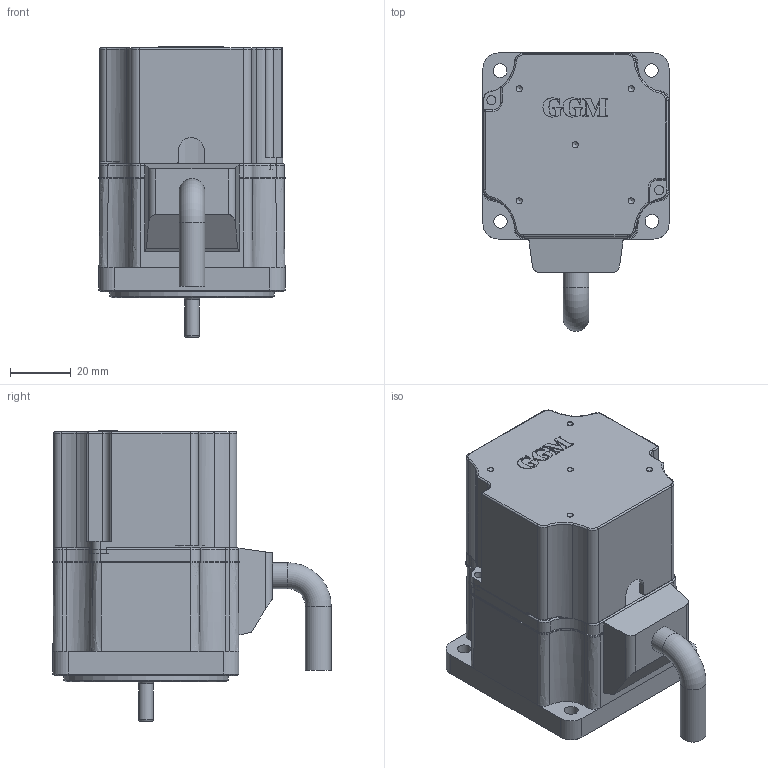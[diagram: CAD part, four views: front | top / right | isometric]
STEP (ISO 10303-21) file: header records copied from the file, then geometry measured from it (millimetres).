
FILE_DESCRIPTION((''),'2;1');
FILE_NAME('C:\Users\LEEKA\Desktop\홈페이지 업로드용\3D 단품\B Series brake\F Series brake\F Series 30w_brake_H.stp','2022-01-28T11:19:04',('LEEKA'),(''),'Autodesk Inventor 2012','Autodesk Inventor 2012','');
FILE_SCHEMA(('AUTOMOTIVE_DESIGN { 1 0 10303 214 1 1 1 1 }'));
Products named in the file (3): 조립품24; K6BH30N□; BRAKE COVER 최종
Assembly tree (2 placements, depth 2):
  조립품24
    K6BH30N□
    BRAKE COVER 최종
Bounding box: 61.1 x 91.3 x 95.3 mm (x, y, z)
Volume: 174533.7 mm3; surface area: 48421.4 mm2
Topology: 2 solids, 11 shells, 380 faces, 970 edges, 620 vertices
Faces by surface type: plane 155, cylinder 129, bspline 47, torus 30, cone 15, sphere 4
Full cylindrical faces by diameter (mm): 2 x5, 2.8 x8, 3 x2, 4.5 x4, 4.7 x1, 7.5 x1, 8.5 x2, 54 x1
Entity records: 12281 total; most frequent: CARTESIAN_POINT 3031, ORIENTED_EDGE 1852, DIRECTION 1836, EDGE_CURVE 926, AXIS2_PLACEMENT_3D 665, VERTEX_POINT 613, VECTOR 506, LINE 506
